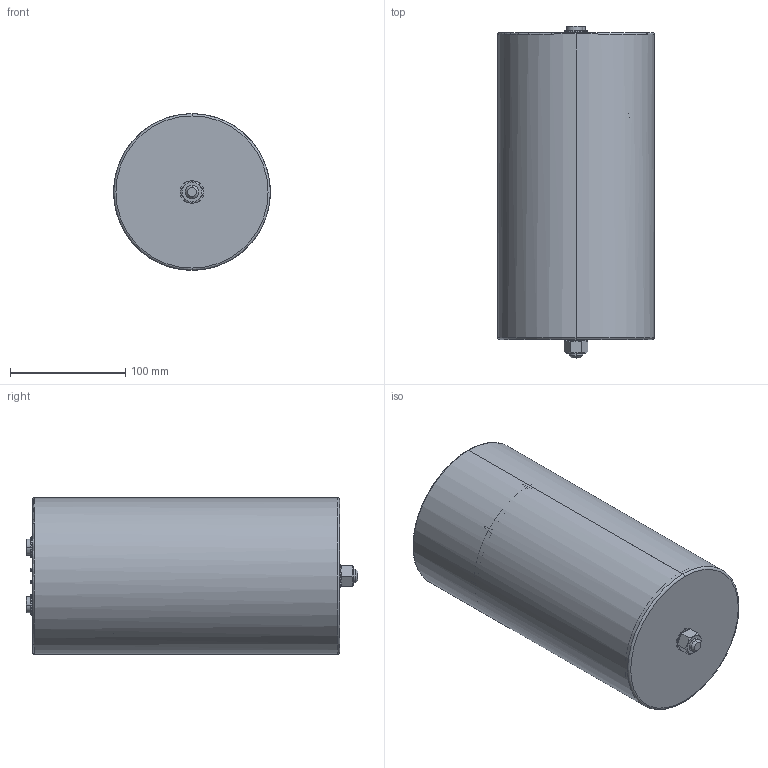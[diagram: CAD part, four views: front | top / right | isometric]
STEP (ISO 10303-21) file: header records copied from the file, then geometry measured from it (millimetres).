
FILE_DESCRIPTION (( 'STEP AP214' ), '1' );
FILE_NAME ('B25690 Series ¦µ136 Hc266 Ht272.STEP', '2025-01-14T08:17:25', ( '' ), ( '' ), 'SwSTEP 2.0', 'SolidWorks 2019', '' );
FILE_SCHEMA (( 'AUTOMOTIVE_DESIGN' ));
Length unit declared in the file: millimetre
Products named in the file (1): B25690 Series 朴136 Hc266 Ht272
Bounding box: 136 x 288 x 136 mm (x, y, z)
Volume: 322083 mm3; surface area: 282071.9 mm2
Topology: 1 solids, 3 shells, 233 faces, 593 edges, 364 vertices
Faces by surface type: plane 104, cylinder 75, cone 38, torus 8, sphere 8
Entity records: 7257 total; most frequent: CARTESIAN_POINT 1649, DIRECTION 1199, ORIENTED_EDGE 1162, EDGE_CURVE 581, AXIS2_PLACEMENT_3D 478, VERTEX_POINT 364, EDGE_LOOP 245, CIRCLE 244
